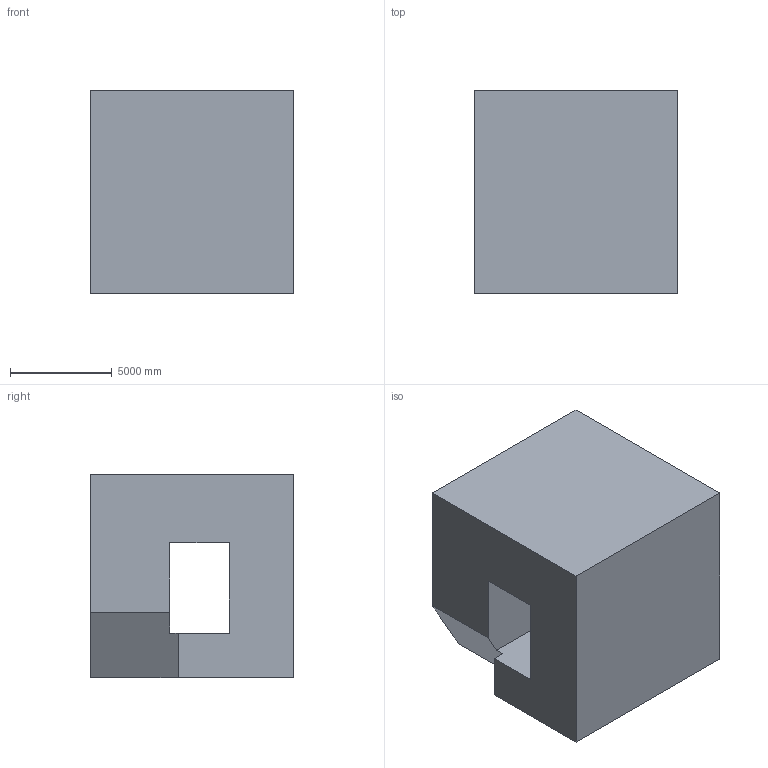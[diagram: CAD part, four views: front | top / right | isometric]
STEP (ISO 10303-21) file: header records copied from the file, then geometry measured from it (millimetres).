
FILE_DESCRIPTION (( 'STEP AP203' ), '1' );
FILE_NAME ('1215.STEP', '2022-08-18T13:13:35', ( 'user' ), ( '' ), 'SwSTEP 2.0', 'SolidWorks 2021', '' );
FILE_SCHEMA (( 'CONFIG_CONTROL_DESIGN' ));
Length unit declared in the file: centimetre
Products named in the file (1): 1215
Bounding box: 10000 x 10000 x 10000 mm (x, y, z)
Volume: 842662779548.2 mm3; surface area: 736523138.4 mm2
Topology: 1 solids, 1 shells, 18 faces, 54 edges, 36 vertices
Faces by surface type: plane 18
Entity records: 683 total; most frequent: CARTESIAN_POINT 109, ORIENTED_EDGE 108, DIRECTION 92, VECTOR 54, LINE 54, EDGE_CURVE 54, VERTEX_POINT 36, EDGE_LOOP 20
